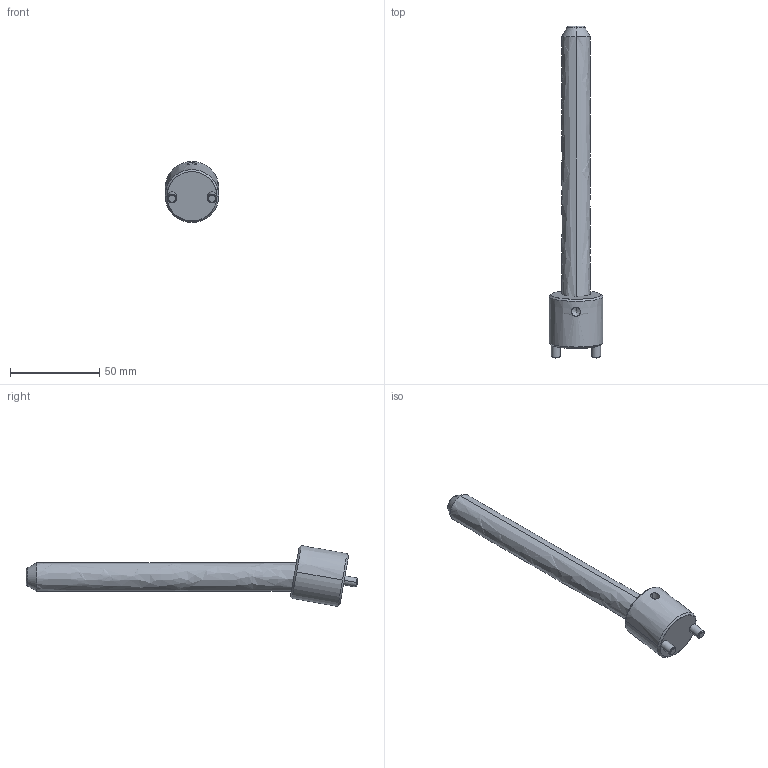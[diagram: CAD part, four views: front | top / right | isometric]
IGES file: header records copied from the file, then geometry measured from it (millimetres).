
Start section: START RECORD GO HERE.
Global section: file name: CI1016150.igs; native system: DASSAULT SYSTEMES CATIA V5 R20 - www.3ds.com; preprocessor: CATIA Version 5 Release 20 ; author: r.borello; organization: CFTORINO; date: 20190621.155424; units: millimetre
Bounding box: 30 x 185.83 x 34.06 mm (x, y, z)
Surface area: 14488.8 mm2 (no closed solid volume)
Topology: 0 solids, 0 shells, 39 faces, 162 edges, 160 vertices
Faces by surface type: revolution 32, plane 7
